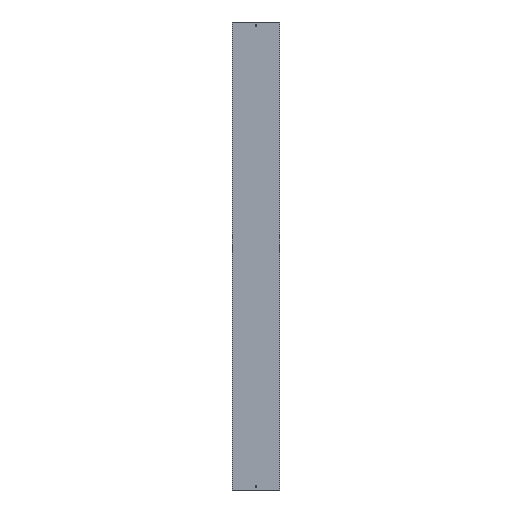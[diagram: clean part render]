
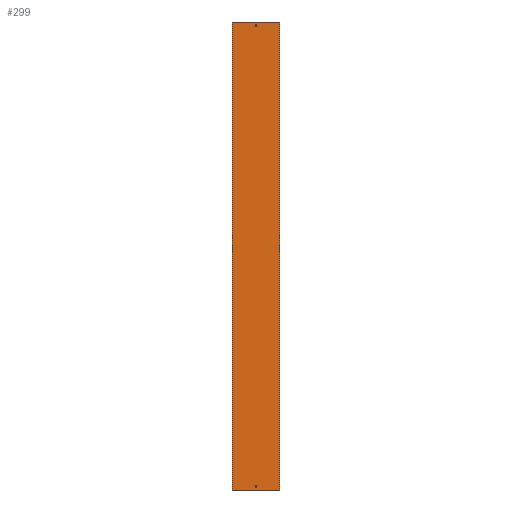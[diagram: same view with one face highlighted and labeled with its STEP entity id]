
A CAD part, front view. The second image highlights one B-rep face of the part: STEP entity #299.
In plain terms, the highlighted planar face has unit normal (0, -1, 0).
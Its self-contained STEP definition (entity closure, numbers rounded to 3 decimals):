
#18 = DIRECTION ( 'NONE',  ( 1., 0., 0. ) ) ;
#25 = DIRECTION ( 'NONE',  ( 0., 1., 0. ) ) ;
#29 = EDGE_LOOP ( 'NONE', ( #1483, #265, #119, #954 ) ) ;
#35 = DIRECTION ( 'NONE',  ( 0., 0., -1. ) ) ;
#43 = ORIENTED_EDGE ( 'NONE', *, *, #568, .T. ) ;
#83 = DIRECTION ( 'NONE',  ( -1., 0., 0. ) ) ;
#119 = ORIENTED_EDGE ( 'NONE', *, *, #1625, .F. ) ;
#124 = DIRECTION ( 'NONE',  ( 1., 0., 0. ) ) ;
#136 = EDGE_CURVE ( 'NONE', #229, #385, #1631, .T. ) ;
#141 = VERTEX_POINT ( 'NONE', #331 ) ;
#179 = ORIENTED_EDGE ( 'NONE', *, *, #136, .F. ) ;
#194 = EDGE_CURVE ( 'NONE', #1544, #869, #228, .T. ) ;
#228 = LINE ( 'NONE', #353, #984 ) ;
#229 = VERTEX_POINT ( 'NONE', #700 ) ;
#230 = LINE ( 'NONE', #1391, #458 ) ;
#257 = CARTESIAN_POINT ( 'NONE',  ( 102., 0., 1000. ) ) ;
#265 = ORIENTED_EDGE ( 'NONE', *, *, #320, .F. ) ;
#285 = VECTOR ( 'NONE', #1363, 1000. ) ;
#295 = LINE ( 'NONE', #567, #397 ) ;
#299 = ADVANCED_FACE ( 'NONE', ( #556, #689, #1204 ), #550, .F. ) ;
#320 = EDGE_CURVE ( 'NONE', #367, #910, #804, .T. ) ;
#330 = CARTESIAN_POINT ( 'NONE',  ( 102., 0., -1000. ) ) ;
#331 = CARTESIAN_POINT ( 'NONE',  ( 3.25, 0., 988. ) ) ;
#335 = VECTOR ( 'NONE', #18, 1000. ) ;
#342 = CARTESIAN_POINT ( 'NONE',  ( -3.25, 0., 988. ) ) ;
#353 = CARTESIAN_POINT ( 'NONE',  ( -3.25, 0., -988. ) ) ;
#367 = VERTEX_POINT ( 'NONE', #1170 ) ;
#384 = LINE ( 'NONE', #1290, #878 ) ;
#385 = VERTEX_POINT ( 'NONE', #257 ) ;
#386 = CARTESIAN_POINT ( 'NONE',  ( -102., 0., -1000. ) ) ;
#397 = VECTOR ( 'NONE', #1218, 1000. ) ;
#410 = VERTEX_POINT ( 'NONE', #780 ) ;
#458 = VECTOR ( 'NONE', #1374, 1000. ) ;
#482 = VECTOR ( 'NONE', #124, 1000. ) ;
#543 = LINE ( 'NONE', #806, #335 ) ;
#549 = CARTESIAN_POINT ( 'NONE',  ( -3.25, 0., -979. ) ) ;
#550 = PLANE ( 'NONE',  #1121 ) ;
#556 = FACE_OUTER_BOUND ( 'NONE', #1460, .T. ) ;
#563 = EDGE_LOOP ( 'NONE', ( #1217, #861, #1129, #1522 ) ) ;
#567 = CARTESIAN_POINT ( 'NONE',  ( -3.25, 0., -988. ) ) ;
#568 = EDGE_CURVE ( 'NONE', #229, #771, #1157, .T. ) ;
#630 = CARTESIAN_POINT ( 'NONE',  ( 3.25, 0., 988. ) ) ;
#677 = EDGE_CURVE ( 'NONE', #998, #410, #543, .T. ) ;
#688 = CARTESIAN_POINT ( 'NONE',  ( 3.25, 0., -988. ) ) ;
#689 = FACE_BOUND ( 'NONE', #29, .T. ) ;
#698 = VECTOR ( 'NONE', #83, 1000. ) ;
#700 = CARTESIAN_POINT ( 'NONE',  ( -102., 0., 1000. ) ) ;
#713 = DIRECTION ( 'NONE',  ( 1., 0., 0. ) ) ;
#771 = VERTEX_POINT ( 'NONE', #1618 ) ;
#776 = CARTESIAN_POINT ( 'NONE',  ( -3.25, 0., -988. ) ) ;
#779 = CARTESIAN_POINT ( 'NONE',  ( -102., 0., 1000. ) ) ;
#780 = CARTESIAN_POINT ( 'NONE',  ( 3.25, 0., -979. ) ) ;
#804 = LINE ( 'NONE', #1069, #1410 ) ;
#806 = CARTESIAN_POINT ( 'NONE',  ( -3.25, 0., -979. ) ) ;
#849 = VECTOR ( 'NONE', #713, 1000. ) ;
#861 = ORIENTED_EDGE ( 'NONE', *, *, #677, .T. ) ;
#869 = VERTEX_POINT ( 'NONE', #776 ) ;
#873 = EDGE_CURVE ( 'NONE', #771, #1321, #1529, .T. ) ;
#878 = VECTOR ( 'NONE', #1268, 1000. ) ;
#910 = VERTEX_POINT ( 'NONE', #1164 ) ;
#954 = ORIENTED_EDGE ( 'NONE', *, *, #1643, .F. ) ;
#984 = VECTOR ( 'NONE', #1662, 1000. ) ;
#998 = VERTEX_POINT ( 'NONE', #549 ) ;
#1007 = LINE ( 'NONE', #630, #285 ) ;
#1039 = ORIENTED_EDGE ( 'NONE', *, *, #873, .T. ) ;
#1065 = CARTESIAN_POINT ( 'NONE',  ( 3.25, 0., 979. ) ) ;
#1069 = CARTESIAN_POINT ( 'NONE',  ( -3.25, 0., 988. ) ) ;
#1121 = AXIS2_PLACEMENT_3D ( 'NONE', #1592, #25, #1563 ) ;
#1129 = ORIENTED_EDGE ( 'NONE', *, *, #1395, .T. ) ;
#1157 = LINE ( 'NONE', #779, #1303 ) ;
#1164 = CARTESIAN_POINT ( 'NONE',  ( -3.25, 0., 979. ) ) ;
#1170 = CARTESIAN_POINT ( 'NONE',  ( -3.25, 0., 988. ) ) ;
#1200 = VERTEX_POINT ( 'NONE', #1065 ) ;
#1204 = FACE_BOUND ( 'NONE', #563, .T. ) ;
#1217 = ORIENTED_EDGE ( 'NONE', *, *, #1577, .T. ) ;
#1218 = DIRECTION ( 'NONE',  ( 0., 0., 1. ) ) ;
#1268 = DIRECTION ( 'NONE',  ( 0., 0., -1. ) ) ;
#1289 = ORIENTED_EDGE ( 'NONE', *, *, #1608, .F. ) ;
#1290 = CARTESIAN_POINT ( 'NONE',  ( 3.25, 0., -988. ) ) ;
#1303 = VECTOR ( 'NONE', #1667, 1000. ) ;
#1321 = VERTEX_POINT ( 'NONE', #330 ) ;
#1345 = CARTESIAN_POINT ( 'NONE',  ( -102., 0., 1000. ) ) ;
#1363 = DIRECTION ( 'NONE',  ( 0., 0., 1. ) ) ;
#1374 = DIRECTION ( 'NONE',  ( 0., 0., -1. ) ) ;
#1386 = EDGE_CURVE ( 'NONE', #910, #1200, #1527, .T. ) ;
#1391 = CARTESIAN_POINT ( 'NONE',  ( 102., 0., 1000. ) ) ;
#1395 = EDGE_CURVE ( 'NONE', #410, #1544, #384, .T. ) ;
#1398 = DIRECTION ( 'NONE',  ( 1., 0., 0. ) ) ;
#1410 = VECTOR ( 'NONE', #35, 1000. ) ;
#1460 = EDGE_LOOP ( 'NONE', ( #1039, #1289, #179, #43 ) ) ;
#1483 = ORIENTED_EDGE ( 'NONE', *, *, #1386, .F. ) ;
#1522 = ORIENTED_EDGE ( 'NONE', *, *, #194, .T. ) ;
#1527 = LINE ( 'NONE', #1550, #1604 ) ;
#1529 = LINE ( 'NONE', #386, #482 ) ;
#1544 = VERTEX_POINT ( 'NONE', #688 ) ;
#1550 = CARTESIAN_POINT ( 'NONE',  ( -3.25, 0., 979. ) ) ;
#1563 = DIRECTION ( 'NONE',  ( -1., 0., 0. ) ) ;
#1577 = EDGE_CURVE ( 'NONE', #869, #998, #295, .T. ) ;
#1592 = CARTESIAN_POINT ( 'NONE',  ( -102., 0., 1000. ) ) ;
#1604 = VECTOR ( 'NONE', #1398, 1000. ) ;
#1608 = EDGE_CURVE ( 'NONE', #385, #1321, #230, .T. ) ;
#1618 = CARTESIAN_POINT ( 'NONE',  ( -102., 0., -1000. ) ) ;
#1625 = EDGE_CURVE ( 'NONE', #141, #367, #1632, .T. ) ;
#1631 = LINE ( 'NONE', #1345, #849 ) ;
#1632 = LINE ( 'NONE', #342, #698 ) ;
#1643 = EDGE_CURVE ( 'NONE', #1200, #141, #1007, .T. ) ;
#1662 = DIRECTION ( 'NONE',  ( -1., 0., 0. ) ) ;
#1667 = DIRECTION ( 'NONE',  ( 0., 0., -1. ) ) ;
